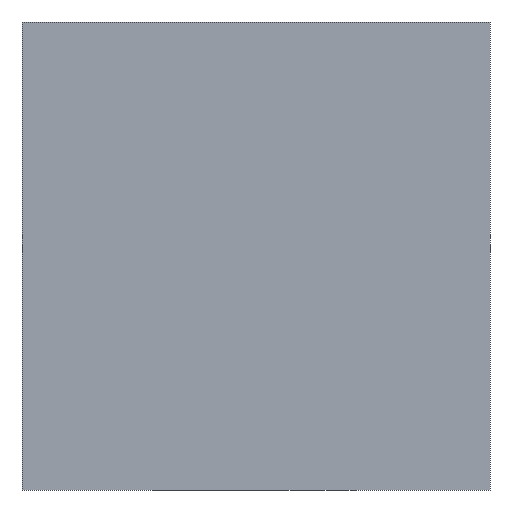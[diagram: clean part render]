
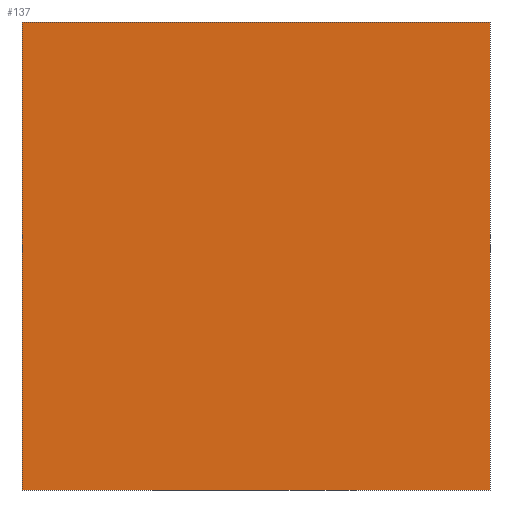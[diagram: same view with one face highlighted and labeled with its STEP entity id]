
A CAD part, front view. The second image highlights one B-rep face of the part: STEP entity #137.
In plain terms, the highlighted planar face has unit normal (0, -1, 0).
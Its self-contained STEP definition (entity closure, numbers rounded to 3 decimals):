
#21 = EDGE_CURVE('',#22,#24,#26,.T.);
#22 = VERTEX_POINT('',#23);
#23 = CARTESIAN_POINT('',(0.,0.,0.));
#24 = VERTEX_POINT('',#25);
#25 = CARTESIAN_POINT('',(0.,0.,8.));
#26 = SURFACE_CURVE('',#27,(#31,#43),.PCURVE_S1.);
#27 = LINE('',#28,#29);
#28 = CARTESIAN_POINT('',(0.,0.,0.));
#29 = VECTOR('',#30,1.);
#30 = DIRECTION('',(0.,0.,1.));
#31 = PCURVE('',#32,#37);
#32 = PLANE('',#33);
#33 = AXIS2_PLACEMENT_3D('',#34,#35,#36);
#34 = CARTESIAN_POINT('',(0.,0.,0.));
#35 = DIRECTION('',(1.,0.,0.));
#36 = DIRECTION('',(0.,0.,1.));
#37 = DEFINITIONAL_REPRESENTATION('',(#38),#42);
#38 = LINE('',#39,#40);
#39 = CARTESIAN_POINT('',(0.,0.));
#40 = VECTOR('',#41,1.);
#41 = DIRECTION('',(1.,0.));
#42 = ( GEOMETRIC_REPRESENTATION_CONTEXT(2) 
PARAMETRIC_REPRESENTATION_CONTEXT() REPRESENTATION_CONTEXT('2D SPACE',''
  ) );
#43 = PCURVE('',#44,#49);
#44 = PLANE('',#45);
#45 = AXIS2_PLACEMENT_3D('',#46,#47,#48);
#46 = CARTESIAN_POINT('',(0.,0.,0.));
#47 = DIRECTION('',(0.,1.,0.));
#48 = DIRECTION('',(0.,0.,1.));
#49 = DEFINITIONAL_REPRESENTATION('',(#50),#54);
#50 = LINE('',#51,#52);
#51 = CARTESIAN_POINT('',(0.,0.));
#52 = VECTOR('',#53,1.);
#53 = DIRECTION('',(1.,0.));
#54 = ( GEOMETRIC_REPRESENTATION_CONTEXT(2) 
PARAMETRIC_REPRESENTATION_CONTEXT() REPRESENTATION_CONTEXT('2D SPACE',''
  ) );
#72 = PLANE('',#73);
#73 = AXIS2_PLACEMENT_3D('',#74,#75,#76);
#74 = CARTESIAN_POINT('',(0.,0.,0.));
#75 = DIRECTION('',(0.,0.,1.));
#76 = DIRECTION('',(1.,0.,0.));
#126 = PLANE('',#127);
#127 = AXIS2_PLACEMENT_3D('',#128,#129,#130);
#128 = CARTESIAN_POINT('',(0.,0.,8.));
#129 = DIRECTION('',(0.,0.,1.));
#130 = DIRECTION('',(1.,0.,0.));
#137 = ADVANCED_FACE('',(#138),#44,.F.);
#138 = FACE_BOUND('',#139,.F.);
#139 = EDGE_LOOP('',(#140,#163,#164,#187));
#140 = ORIENTED_EDGE('',*,*,#141,.F.);
#141 = EDGE_CURVE('',#22,#142,#144,.T.);
#142 = VERTEX_POINT('',#143);
#143 = CARTESIAN_POINT('',(8.,0.,0.));
#144 = SURFACE_CURVE('',#145,(#149,#156),.PCURVE_S1.);
#145 = LINE('',#146,#147);
#146 = CARTESIAN_POINT('',(0.,0.,0.));
#147 = VECTOR('',#148,1.);
#148 = DIRECTION('',(1.,0.,0.));
#149 = PCURVE('',#44,#150);
#150 = DEFINITIONAL_REPRESENTATION('',(#151),#155);
#151 = LINE('',#152,#153);
#152 = CARTESIAN_POINT('',(0.,0.));
#153 = VECTOR('',#154,1.);
#154 = DIRECTION('',(0.,1.));
#155 = ( GEOMETRIC_REPRESENTATION_CONTEXT(2) 
PARAMETRIC_REPRESENTATION_CONTEXT() REPRESENTATION_CONTEXT('2D SPACE',''
  ) );
#156 = PCURVE('',#72,#157);
#157 = DEFINITIONAL_REPRESENTATION('',(#158),#162);
#158 = LINE('',#159,#160);
#159 = CARTESIAN_POINT('',(0.,0.));
#160 = VECTOR('',#161,1.);
#161 = DIRECTION('',(1.,0.));
#162 = ( GEOMETRIC_REPRESENTATION_CONTEXT(2) 
PARAMETRIC_REPRESENTATION_CONTEXT() REPRESENTATION_CONTEXT('2D SPACE',''
  ) );
#163 = ORIENTED_EDGE('',*,*,#21,.T.);
#164 = ORIENTED_EDGE('',*,*,#165,.T.);
#165 = EDGE_CURVE('',#24,#166,#168,.T.);
#166 = VERTEX_POINT('',#167);
#167 = CARTESIAN_POINT('',(8.,0.,8.));
#168 = SURFACE_CURVE('',#169,(#173,#180),.PCURVE_S1.);
#169 = LINE('',#170,#171);
#170 = CARTESIAN_POINT('',(0.,0.,8.));
#171 = VECTOR('',#172,1.);
#172 = DIRECTION('',(1.,0.,0.));
#173 = PCURVE('',#44,#174);
#174 = DEFINITIONAL_REPRESENTATION('',(#175),#179);
#175 = LINE('',#176,#177);
#176 = CARTESIAN_POINT('',(8.,0.));
#177 = VECTOR('',#178,1.);
#178 = DIRECTION('',(0.,1.));
#179 = ( GEOMETRIC_REPRESENTATION_CONTEXT(2) 
PARAMETRIC_REPRESENTATION_CONTEXT() REPRESENTATION_CONTEXT('2D SPACE',''
  ) );
#180 = PCURVE('',#126,#181);
#181 = DEFINITIONAL_REPRESENTATION('',(#182),#186);
#182 = LINE('',#183,#184);
#183 = CARTESIAN_POINT('',(0.,0.));
#184 = VECTOR('',#185,1.);
#185 = DIRECTION('',(1.,0.));
#186 = ( GEOMETRIC_REPRESENTATION_CONTEXT(2) 
PARAMETRIC_REPRESENTATION_CONTEXT() REPRESENTATION_CONTEXT('2D SPACE',''
  ) );
#187 = ORIENTED_EDGE('',*,*,#188,.F.);
#188 = EDGE_CURVE('',#142,#166,#189,.T.);
#189 = SURFACE_CURVE('',#190,(#194,#201),.PCURVE_S1.);
#190 = LINE('',#191,#192);
#191 = CARTESIAN_POINT('',(8.,0.,0.));
#192 = VECTOR('',#193,1.);
#193 = DIRECTION('',(0.,0.,1.));
#194 = PCURVE('',#44,#195);
#195 = DEFINITIONAL_REPRESENTATION('',(#196),#200);
#196 = LINE('',#197,#198);
#197 = CARTESIAN_POINT('',(0.,8.));
#198 = VECTOR('',#199,1.);
#199 = DIRECTION('',(1.,0.));
#200 = ( GEOMETRIC_REPRESENTATION_CONTEXT(2) 
PARAMETRIC_REPRESENTATION_CONTEXT() REPRESENTATION_CONTEXT('2D SPACE',''
  ) );
#201 = PCURVE('',#202,#207);
#202 = PLANE('',#203);
#203 = AXIS2_PLACEMENT_3D('',#204,#205,#206);
#204 = CARTESIAN_POINT('',(8.,0.,0.));
#205 = DIRECTION('',(1.,0.,0.));
#206 = DIRECTION('',(0.,0.,1.));
#207 = DEFINITIONAL_REPRESENTATION('',(#208),#212);
#208 = LINE('',#209,#210);
#209 = CARTESIAN_POINT('',(0.,0.));
#210 = VECTOR('',#211,1.);
#211 = DIRECTION('',(1.,0.));
#212 = ( GEOMETRIC_REPRESENTATION_CONTEXT(2) 
PARAMETRIC_REPRESENTATION_CONTEXT() REPRESENTATION_CONTEXT('2D SPACE',''
  ) );
